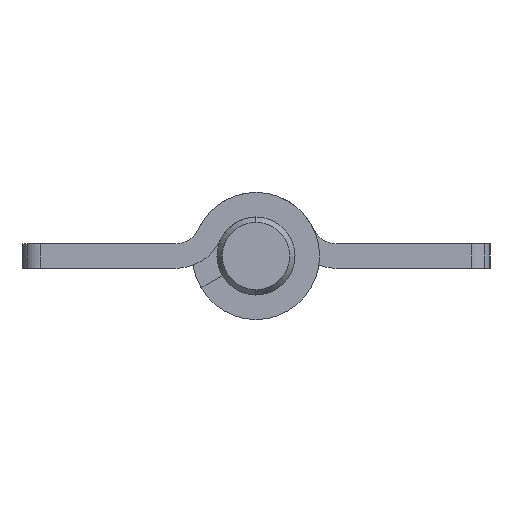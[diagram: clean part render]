
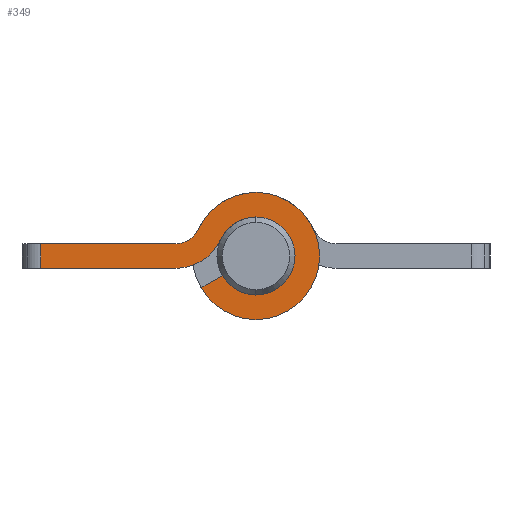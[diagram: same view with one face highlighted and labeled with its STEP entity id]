
A CAD part, left-side view. The second image highlights one B-rep face of the part: STEP entity #349.
In plain terms, the highlighted planar face has unit normal (-1, 0, 0).
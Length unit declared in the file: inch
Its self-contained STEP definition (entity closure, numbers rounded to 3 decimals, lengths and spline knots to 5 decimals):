
#349=ADVANCED_FACE('',(#717),#718,.F.);
#717=FACE_OUTER_BOUND('',#1132,.T.);
#718=PLANE('',#1133);
#1132=EDGE_LOOP('',(#1996,#1997,#1998,#1999,#2000,#2001,#2002,#2003,#2004,#2005,#2006,#2007));
#1133=AXIS2_PLACEMENT_3D('',#2008,#2009,#2010);
#1996=ORIENTED_EDGE('',*,*,#2676,.F.);
#1997=ORIENTED_EDGE('',*,*,#2715,.F.);
#1998=ORIENTED_EDGE('',*,*,#2528,.F.);
#1999=ORIENTED_EDGE('',*,*,#2411,.F.);
#2000=ORIENTED_EDGE('',*,*,#2421,.F.);
#2001=ORIENTED_EDGE('',*,*,#2533,.F.);
#2002=ORIENTED_EDGE('',*,*,#2729,.F.);
#2003=ORIENTED_EDGE('',*,*,#2598,.F.);
#2004=ORIENTED_EDGE('',*,*,#2510,.F.);
#2005=ORIENTED_EDGE('',*,*,#2494,.F.);
#2006=ORIENTED_EDGE('',*,*,#2431,.F.);
#2007=ORIENTED_EDGE('',*,*,#2730,.F.);
#2008=CARTESIAN_POINT('',(-2.18357,-4.40582,-0.00024));
#2009=DIRECTION('',(1.0,0.,0.));
#2010=DIRECTION('',(0.,0.,1.0));
#2411=EDGE_CURVE('',#2879,#2881,#2882,.T.);
#2421=EDGE_CURVE('',#2896,#2879,#2899,.T.);
#2431=EDGE_CURVE('',#2914,#2916,#2917,.T.);
#2494=EDGE_CURVE('',#2916,#3020,#3024,.T.);
#2510=EDGE_CURVE('',#3020,#3050,#3051,.T.);
#2528=EDGE_CURVE('',#2881,#3080,#3081,.T.);
#2533=EDGE_CURVE('',#3086,#2896,#3088,.T.);
#2598=EDGE_CURVE('',#3050,#3187,#3188,.T.);
#2676=EDGE_CURVE('',#3299,#3301,#3302,.T.);
#2715=EDGE_CURVE('',#3080,#3299,#3348,.T.);
#2729=EDGE_CURVE('',#3187,#3086,#3363,.T.);
#2730=EDGE_CURVE('',#3301,#2914,#3364,.T.);
#2879=VERTEX_POINT('',#3535);
#2881=VERTEX_POINT('',#3538);
#2882=CIRCLE('',#3539,0.0625);
#2896=VERTEX_POINT('',#3556);
#2899=CIRCLE('',#3560,0.0625);
#2914=VERTEX_POINT('',#3577);
#2916=VERTEX_POINT('',#3580);
#2917=CIRCLE('',#3581,0.03937);
#3020=VERTEX_POINT('',#3709);
#3024=CIRCLE('',#3714,0.10187);
#3050=VERTEX_POINT('',#3747);
#3051=CIRCLE('',#3748,0.10187);
#3080=VERTEX_POINT('',#3783);
#3081=CIRCLE('',#3784,0.07874);
#3086=VERTEX_POINT('',#3790);
#3088=CIRCLE('',#3793,0.0625);
#3187=VERTEX_POINT('',#3914);
#3188=CIRCLE('',#3915,0.10187);
#3299=VERTEX_POINT('',#4052);
#3301=VERTEX_POINT('',#4054);
#3302=LINE('',#4055,#4056);
#3348=LINE('',#4117,#4118);
#3363=LINE('',#4136,#4137);
#3364=LINE('',#4138,#4139);
#3535=CARTESIAN_POINT('',(-2.18357,-4.5,0.0625));
#3538=CARTESIAN_POINT('',(-2.18357,-4.44323,0.02613));
#3539=AXIS2_PLACEMENT_3D('',#4313,#4314,#4315);
#3556=CARTESIAN_POINT('',(-2.18357,-4.5,-0.0625));
#3560=AXIS2_PLACEMENT_3D('',#4329,#4330,#4331);
#3577=CARTESIAN_POINT('',(-2.18357,-4.3717,0.01969));
#3580=CARTESIAN_POINT('',(-2.18357,-4.40746,0.04259));
#3581=AXIS2_PLACEMENT_3D('',#4347,#4348,#4349);
#3709=CARTESIAN_POINT('',(-2.18357,-4.5,0.10187));
#3714=AXIS2_PLACEMENT_3D('',#4451,#4452,#4453);
#3747=CARTESIAN_POINT('',(-2.18357,-4.5,-0.10187));
#3748=AXIS2_PLACEMENT_3D('',#4473,#4474,#4475);
#3783=CARTESIAN_POINT('',(-2.18357,-4.3717,-0.01969));
#3784=AXIS2_PLACEMENT_3D('',#4503,#4504,#4505);
#3790=CARTESIAN_POINT('',(-2.18357,-4.44587,-0.03125));
#3793=AXIS2_PLACEMENT_3D('',#4511,#4512,#4513);
#3914=CARTESIAN_POINT('',(-2.18357,-4.41178,-0.05094));
#3915=AXIS2_PLACEMENT_3D('',#4620,#4621,#4622);
#4052=CARTESIAN_POINT('',(-2.18357,-4.155,-0.01969));
#4054=CARTESIAN_POINT('',(-2.18357,-4.155,0.01969));
#4055=CARTESIAN_POINT('',(-2.18357,-4.155,-0.00012));
#4056=VECTOR('',#4751,0.3937);
#4117=CARTESIAN_POINT('',(-2.18357,-4.3717,-0.01969));
#4118=VECTOR('',#4797,0.3937);
#4136=CARTESIAN_POINT('',(-2.18357,-4.41178,-0.05094));
#4137=VECTOR('',#4816,0.3937);
#4138=CARTESIAN_POINT('',(-2.18357,-4.125,0.01969));
#4139=VECTOR('',#4817,0.3937);
#4313=CARTESIAN_POINT('',(-2.18357,-4.5,0.));
#4314=DIRECTION('',(-1.0,0.,0.));
#4315=DIRECTION('',(0.,0.,-1.0));
#4329=CARTESIAN_POINT('',(-2.18357,-4.5,0.));
#4330=DIRECTION('',(-1.0,0.,0.));
#4331=DIRECTION('',(0.,0.,-1.0));
#4347=CARTESIAN_POINT('',(-2.18357,-4.3717,0.05906));
#4348=DIRECTION('',(-1.0,0.,0.));
#4349=DIRECTION('',(0.,0.,-1.0));
#4451=CARTESIAN_POINT('',(-2.18357,-4.5,0.));
#4452=DIRECTION('',(1.0,0.,0.));
#4453=DIRECTION('',(0.,0.,1.0));
#4473=CARTESIAN_POINT('',(-2.18357,-4.5,0.));
#4474=DIRECTION('',(1.0,0.,0.));
#4475=DIRECTION('',(0.,0.,1.0));
#4503=CARTESIAN_POINT('',(-2.18357,-4.3717,0.05906));
#4504=DIRECTION('',(1.0,0.,0.));
#4505=DIRECTION('',(0.,0.,1.0));
#4511=CARTESIAN_POINT('',(-2.18357,-4.5,0.));
#4512=DIRECTION('',(-1.0,0.,0.));
#4513=DIRECTION('',(0.,0.,-1.0));
#4620=CARTESIAN_POINT('',(-2.18357,-4.5,0.));
#4621=DIRECTION('',(1.0,0.,0.));
#4622=DIRECTION('',(0.,0.,1.0));
#4751=DIRECTION('',(0.,0.,1.0));
#4797=DIRECTION('',(0.,1.0,0.));
#4816=DIRECTION('',(0.,-0.866,0.5));
#4817=DIRECTION('',(0.,-1.0,0.));
